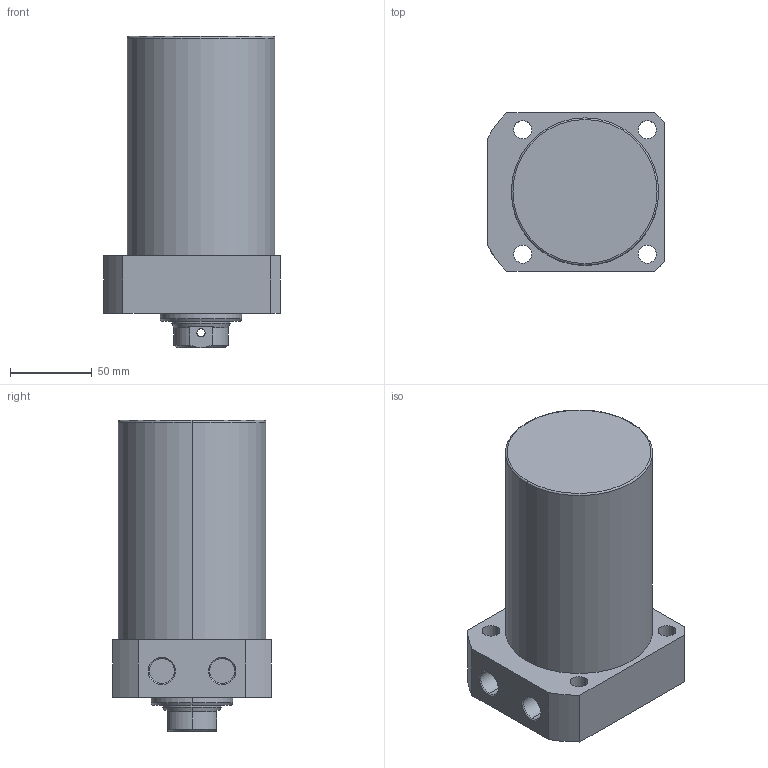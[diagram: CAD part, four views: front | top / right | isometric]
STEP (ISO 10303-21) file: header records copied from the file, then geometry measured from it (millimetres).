
FILE_DESCRIPTION (( 'STEP AP203' ), '1' );
FILE_NAME ('CLLR-090CB-090.STEP', '2019-12-18T06:13:10', ( '' ), ( '' ), 'SwSTEP 2.0', 'SolidWorks 2015', '' );
FILE_SCHEMA (( 'CONFIG_CONTROL_DESIGN' ));
Length unit declared in the file: millimetre
Products named in the file (1): CLLR-090CB-090
Bounding box: 108 x 97 x 190 mm (x, y, z)
Volume: 1201127.6 mm3; surface area: 83098.1 mm2
Topology: 1 solids, 1 shells, 69 faces, 163 edges, 102 vertices
Faces by surface type: cylinder 33, plane 19, cone 15, torus 2
Entity records: 2229 total; most frequent: CARTESIAN_POINT 497, DIRECTION 370, ORIENTED_EDGE 322, EDGE_CURVE 161, AXIS2_PLACEMENT_3D 151, VERTEX_POINT 102, EDGE_LOOP 89, CIRCLE 81
